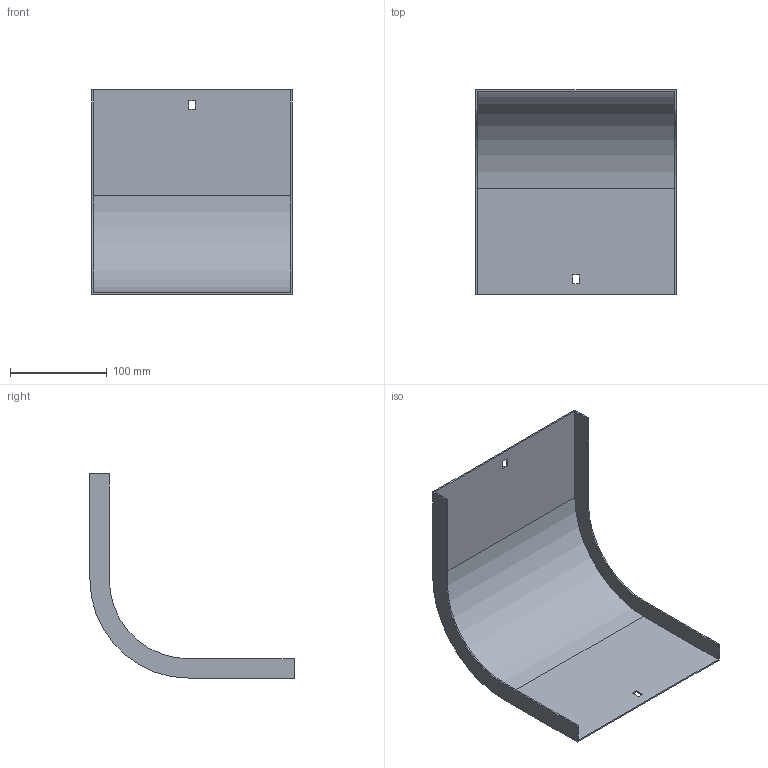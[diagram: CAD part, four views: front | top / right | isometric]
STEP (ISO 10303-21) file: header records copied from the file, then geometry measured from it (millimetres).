
FILE_DESCRIPTION (( 'STEP AP214' ), '1' );
FILE_NAME ('33G1C200.step', '2025-02-21T12:44:50', ( '' ), ( '' ), 'SwSTEP 2.0', 'SolidWorks 2023', '' );
FILE_SCHEMA (( 'AUTOMOTIVE_DESIGN' ));
Length unit declared in the file: millimetre
Products named in the file (1): 33G1C200
Bounding box: 207 x 210.5 x 210.5 mm (x, y, z)
Volume: 136663 mm3; surface area: 184084 mm2
Topology: 1 solids, 1 shells, 26 faces, 72 edges, 48 vertices
Faces by surface type: plane 22, cylinder 4
Entity records: 855 total; most frequent: CARTESIAN_POINT 147, ORIENTED_EDGE 144, DIRECTION 134, EDGE_CURVE 72, VECTOR 64, LINE 64, VERTEX_POINT 48, AXIS2_PLACEMENT_3D 35
